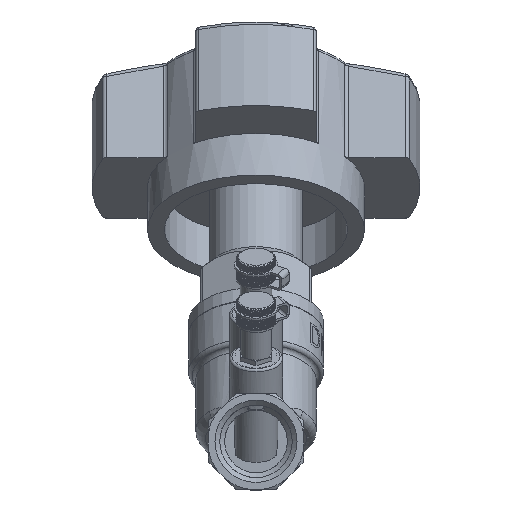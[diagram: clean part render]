
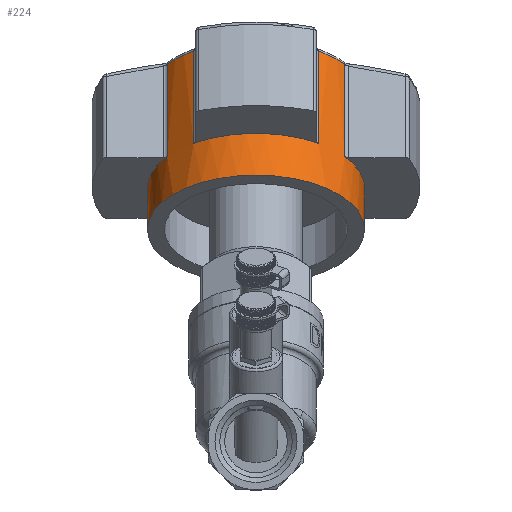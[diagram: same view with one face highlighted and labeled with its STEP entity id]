
A CAD part, top view. The second image highlights one B-rep face of the part: STEP entity #224.
In plain terms, the highlighted cylindrical face has radius 22.5 mm (diameter 45 mm), a full revolution.
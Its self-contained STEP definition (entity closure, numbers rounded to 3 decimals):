
#224=ADVANCED_FACE('',(#11485,#11487),#11489,.T.);
#11485=FACE_BOUND('',#11486,.T.);
#11486=EDGE_LOOP('',(#21924,#21925,#21926,#21927,#21928,#21929,#21930,#21931,#21932,
#21933,#21934,#21935,#21936,#21937,#21938,#21939,#21940));
#11487=FACE_OUTER_BOUND('',#11488,.T.);
#11488=EDGE_LOOP('',(#21941));
#11489=CYLINDRICAL_SURFACE('',#11490,22.5);
#11490=AXIS2_PLACEMENT_3D('',#11491,#11492,#11493);
#11491=CARTESIAN_POINT('',(0.,52.677,-30.413));
#11492=DIRECTION('',(0.,0.866,-0.5));
#11493=DIRECTION('',(-1.,0.,0.));
#21924=ORIENTED_EDGE('',*,*,#28893,.F.);
#21925=ORIENTED_EDGE('',*,*,#28894,.F.);
#21926=ORIENTED_EDGE('',*,*,#28895,.F.);
#21927=ORIENTED_EDGE('',*,*,#28896,.F.);
#21928=ORIENTED_EDGE('',*,*,#28897,.F.);
#21929=ORIENTED_EDGE('',*,*,#28898,.F.);
#21930=ORIENTED_EDGE('',*,*,#28899,.F.);
#21931=ORIENTED_EDGE('',*,*,#28900,.F.);
#21932=ORIENTED_EDGE('',*,*,#28901,.F.);
#21933=ORIENTED_EDGE('',*,*,#28902,.F.);
#21934=ORIENTED_EDGE('',*,*,#28903,.F.);
#21935=ORIENTED_EDGE('',*,*,#28904,.F.);
#21936=ORIENTED_EDGE('',*,*,#28905,.F.);
#21937=ORIENTED_EDGE('',*,*,#28906,.F.);
#21938=ORIENTED_EDGE('',*,*,#28907,.F.);
#21939=ORIENTED_EDGE('',*,*,#28908,.F.);
#21940=ORIENTED_EDGE('',*,*,#28909,.F.);
#21941=ORIENTED_EDGE('',*,*,#28879,.F.);
#28879=EDGE_CURVE('',#32188,#32188,#32189,.T.);
#28893=EDGE_CURVE('',#32216,#32217,#32218,.T.);
#28894=EDGE_CURVE('',#32219,#32216,#32220,.T.);
#28895=EDGE_CURVE('',#32221,#32219,#32222,.T.);
#28896=EDGE_CURVE('',#32223,#32221,#32224,.T.);
#28897=EDGE_CURVE('',#32225,#32223,#32226,.T.);
#28898=EDGE_CURVE('',#32227,#32225,#32228,.T.);
#28899=EDGE_CURVE('',#32229,#32227,#32230,.T.);
#28900=EDGE_CURVE('',#32231,#32229,#32232,.T.);
#28901=EDGE_CURVE('',#32233,#32231,#32234,.T.);
#28902=EDGE_CURVE('',#32235,#32233,#32236,.T.);
#28903=EDGE_CURVE('',#32237,#32235,#32238,.T.);
#28904=EDGE_CURVE('',#32239,#32237,#32240,.T.);
#28905=EDGE_CURVE('',#32241,#32239,#32242,.T.);
#28906=EDGE_CURVE('',#32243,#32241,#32244,.T.);
#28907=EDGE_CURVE('',#32245,#32243,#32246,.T.);
#28908=EDGE_CURVE('',#32247,#32245,#32248,.T.);
#28909=EDGE_CURVE('',#32217,#32247,#32249,.T.);
#32188=VERTEX_POINT('',#37621);
#32189=CIRCLE('',#37622,22.5);
#32216=VERTEX_POINT('',#38043);
#32217=VERTEX_POINT('',#38044);
#32218=CIRCLE('',#38045,22.5);
#32219=VERTEX_POINT('',#38049);
#32220=LINE('',#38050,#38051);
#32221=VERTEX_POINT('',#38053);
#32222=CIRCLE('',#38054,22.5);
#32223=VERTEX_POINT('',#38058);
#32224=LINE('',#38059,#38060);
#32225=VERTEX_POINT('',#38062);
#32226=CIRCLE('',#38063,22.5);
#32227=VERTEX_POINT('',#38067);
#32228=LINE('',#38068,#38069);
#32229=VERTEX_POINT('',#38071);
#32230=CIRCLE('',#38072,22.5);
#32231=VERTEX_POINT('',#38076);
#32232=LINE('',#38077,#38078);
#32233=VERTEX_POINT('',#38080);
#32234=CIRCLE('',#38081,22.5);
#32235=VERTEX_POINT('',#38085);
#32236=LINE('',#38086,#38087);
#32237=VERTEX_POINT('',#38089);
#32238=CIRCLE('',#38090,22.5);
#32239=VERTEX_POINT('',#38094);
#32240=LINE('',#38095,#38096);
#32241=VERTEX_POINT('',#38098);
#32242=CIRCLE('',#38099,22.5);
#32243=VERTEX_POINT('',#38103);
#32244=LINE('',#38104,#38105);
#32245=VERTEX_POINT('',#38107);
#32246=CIRCLE('',#38108,22.5);
#32247=VERTEX_POINT('',#38112);
#32248=LINE('',#38113,#38114);
#32249=CIRCLE('',#38116,22.5);
#37621=CARTESIAN_POINT('',(22.5,44.017,-25.413));
#37622=AXIS2_PLACEMENT_3D('',#37623,#37624,#37625);
#37623=CARTESIAN_POINT('',(0.,44.017,-25.413));
#37624=DIRECTION('',(0.,-0.866,0.5));
#37625=DIRECTION('',(1.,0.,0.));
#38043=CARTESIAN_POINT('',(18.417,59.14,-19.219));
#38044=CARTESIAN_POINT('',(22.5,52.677,-30.413));
#38045=AXIS2_PLACEMENT_3D('',#38046,#38047,#38048);
#38046=CARTESIAN_POINT('',(0.,52.677,-30.413));
#38047=DIRECTION('',(0.,0.866,-0.5));
#38048=DIRECTION('',(0.819,0.287,0.498));
#38049=CARTESIAN_POINT('',(18.417,78.262,-30.26));
#38050=CARTESIAN_POINT('',(18.417,78.262,-30.26));
#38051=VECTOR('',#38052,1.);
#38052=DIRECTION('',(0.,-0.866,0.5));
#38053=CARTESIAN_POINT('',(12.926,81.008,-25.504));
#38054=AXIS2_PLACEMENT_3D('',#38055,#38056,#38057);
#38055=CARTESIAN_POINT('',(0.,71.8,-41.454));
#38056=DIRECTION('',(0.,0.866,-0.5));
#38057=DIRECTION('',(0.574,0.409,0.709));
#38058=CARTESIAN_POINT('',(12.926,61.886,-14.464));
#38059=CARTESIAN_POINT('',(12.926,61.886,-14.464));
#38060=VECTOR('',#38061,1.);
#38061=DIRECTION('',(0.,0.866,-0.5));
#38062=CARTESIAN_POINT('',(-12.926,61.886,-14.464));
#38063=AXIS2_PLACEMENT_3D('',#38064,#38065,#38066);
#38064=CARTESIAN_POINT('',(0.,52.677,-30.413));
#38065=DIRECTION('',(0.,0.866,-0.5));
#38066=DIRECTION('',(-0.574,0.409,0.709));
#38067=CARTESIAN_POINT('',(-12.926,81.008,-25.504));
#38068=CARTESIAN_POINT('',(-12.926,81.008,-25.504));
#38069=VECTOR('',#38070,1.);
#38070=DIRECTION('',(0.,-0.866,0.5));
#38071=CARTESIAN_POINT('',(-18.417,78.262,-30.26));
#38072=AXIS2_PLACEMENT_3D('',#38073,#38074,#38075);
#38073=CARTESIAN_POINT('',(0.,71.8,-41.454));
#38074=DIRECTION('',(0.,0.866,-0.5));
#38075=DIRECTION('',(-0.819,0.287,0.498));
#38076=CARTESIAN_POINT('',(-18.417,59.14,-19.219));
#38077=CARTESIAN_POINT('',(-18.417,59.14,-19.219));
#38078=VECTOR('',#38079,1.);
#38079=DIRECTION('',(0.,0.866,-0.5));
#38080=CARTESIAN_POINT('',(-18.417,46.215,-41.607));
#38081=AXIS2_PLACEMENT_3D('',#38082,#38083,#38084);
#38082=CARTESIAN_POINT('',(0.,52.677,-30.413));
#38083=DIRECTION('',(0.,0.866,-0.5));
#38084=DIRECTION('',(-0.819,-0.287,-0.498));
#38085=CARTESIAN_POINT('',(-18.417,65.337,-52.647));
#38086=CARTESIAN_POINT('',(-18.417,65.337,-52.647));
#38087=VECTOR('',#38088,1.);
#38088=DIRECTION('',(0.,-0.866,0.5));
#38089=CARTESIAN_POINT('',(-12.926,62.591,-57.403));
#38090=AXIS2_PLACEMENT_3D('',#38091,#38092,#38093);
#38091=CARTESIAN_POINT('',(0.,71.8,-41.454));
#38092=DIRECTION('',(0.,0.866,-0.5));
#38093=DIRECTION('',(-0.574,-0.409,-0.709));
#38094=CARTESIAN_POINT('',(-12.926,43.469,-46.363));
#38095=CARTESIAN_POINT('',(-12.926,43.469,-46.363));
#38096=VECTOR('',#38097,1.);
#38097=DIRECTION('',(0.,0.866,-0.5));
#38098=CARTESIAN_POINT('',(12.926,43.469,-46.363));
#38099=AXIS2_PLACEMENT_3D('',#38100,#38101,#38102);
#38100=CARTESIAN_POINT('',(0.,52.677,-30.413));
#38101=DIRECTION('',(0.,0.866,-0.5));
#38102=DIRECTION('',(0.574,-0.409,-0.709));
#38103=CARTESIAN_POINT('',(12.926,62.591,-57.403));
#38104=CARTESIAN_POINT('',(12.926,62.591,-57.403));
#38105=VECTOR('',#38106,1.);
#38106=DIRECTION('',(0.,-0.866,0.5));
#38107=CARTESIAN_POINT('',(18.417,65.337,-52.647));
#38108=AXIS2_PLACEMENT_3D('',#38109,#38110,#38111);
#38109=CARTESIAN_POINT('',(0.,71.8,-41.454));
#38110=DIRECTION('',(0.,0.866,-0.5));
#38111=DIRECTION('',(0.819,-0.287,-0.498));
#38112=CARTESIAN_POINT('',(18.417,46.215,-41.607));
#38113=CARTESIAN_POINT('',(18.417,46.215,-41.607));
#38114=VECTOR('',#38115,1.);
#38115=DIRECTION('',(0.,0.866,-0.5));
#38116=AXIS2_PLACEMENT_3D('',#38117,#38118,#38119);
#38117=CARTESIAN_POINT('',(0.,52.677,-30.413));
#38118=DIRECTION('',(0.,0.866,-0.5));
#38119=DIRECTION('',(1.,0.,0.));
